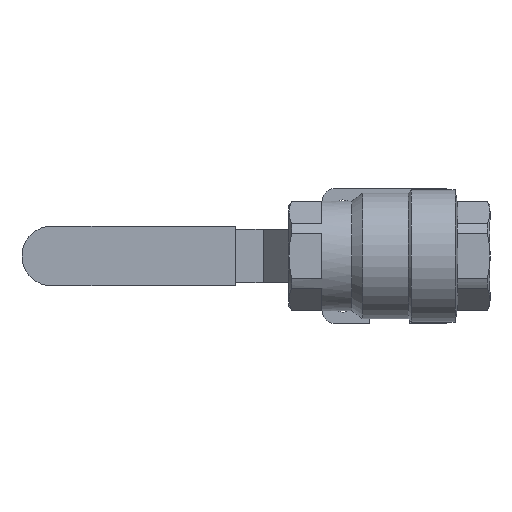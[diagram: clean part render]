
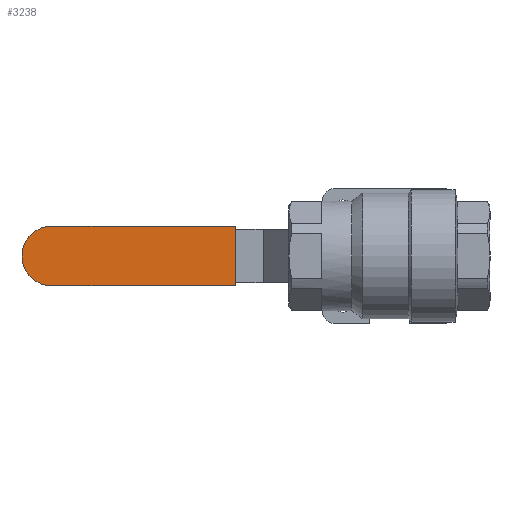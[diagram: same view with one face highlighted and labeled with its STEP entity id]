
A CAD part, front view. The second image highlights one B-rep face of the part: STEP entity #3238.
In plain terms, the highlighted planar face has unit normal (0, -1, 0).
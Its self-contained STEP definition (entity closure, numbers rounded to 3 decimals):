
#9 = ORIENTED_EDGE ( 'NONE', *, *, #4132, .F. ) ;
#40 = CARTESIAN_POINT ( 'NONE',  ( -49., 66., -9.5 ) ) ;
#321 = DIRECTION ( 'NONE',  ( 0., 0., -1. ) ) ;
#427 = DIRECTION ( 'NONE',  ( 0., 1., 0. ) ) ;
#501 = VECTOR ( 'NONE', #4200, 1000. ) ;
#531 = AXIS2_PLACEMENT_3D ( 'NONE', #2644, #427, #3017 ) ;
#788 = PLANE ( 'NONE',  #531 ) ;
#984 = ORIENTED_EDGE ( 'NONE', *, *, #3984, .F. ) ;
#1256 = CARTESIAN_POINT ( 'NONE',  ( -117., 66., -9.5 ) ) ;
#1344 = AXIS2_PLACEMENT_3D ( 'NONE', #4289, #2064, #4680 ) ;
#1453 = CARTESIAN_POINT ( 'NONE',  ( -107.5, 66., -9.5 ) ) ;
#1471 = ORIENTED_EDGE ( 'NONE', *, *, #3709, .T. ) ;
#1506 = CARTESIAN_POINT ( 'NONE',  ( -49., 66., 9.5 ) ) ;
#2064 = DIRECTION ( 'NONE',  ( 0., -1., 0. ) ) ;
#2232 = LINE ( 'NONE', #4017, #4095 ) ;
#2426 = LINE ( 'NONE', #3740, #3403 ) ;
#2480 = FACE_OUTER_BOUND ( 'NONE', #4366, .T. ) ;
#2644 = CARTESIAN_POINT ( 'NONE',  ( -117., 66., 9.5 ) ) ;
#2715 = CARTESIAN_POINT ( 'NONE',  ( -107.5, 66., 9.5 ) ) ;
#3017 = DIRECTION ( 'NONE',  ( -1., 0., 0. ) ) ;
#3081 = ORIENTED_EDGE ( 'NONE', *, *, #3802, .T. ) ;
#3238 = ADVANCED_FACE ( 'NONE', ( #2480 ), #788, .F. ) ;
#3348 = VERTEX_POINT ( 'NONE', #2715 ) ;
#3403 = VECTOR ( 'NONE', #4117, 1000. ) ;
#3452 = LINE ( 'NONE', #1256, #501 ) ;
#3568 = VERTEX_POINT ( 'NONE', #1453 ) ;
#3652 = VERTEX_POINT ( 'NONE', #40 ) ;
#3709 = EDGE_CURVE ( 'NONE', #3568, #3652, #3452, .T. ) ;
#3740 = CARTESIAN_POINT ( 'NONE',  ( -117., 66., 9.5 ) ) ;
#3802 = EDGE_CURVE ( 'NONE', #3348, #3568, #3944, .T. ) ;
#3944 = CIRCLE ( 'NONE', #1344, 9.5 ) ;
#3984 = EDGE_CURVE ( 'NONE', #4589, #3652, #2232, .T. ) ;
#4017 = CARTESIAN_POINT ( 'NONE',  ( -49., 66., 9.5 ) ) ;
#4095 = VECTOR ( 'NONE', #321, 1000. ) ;
#4117 = DIRECTION ( 'NONE',  ( 1., 0., 0. ) ) ;
#4132 = EDGE_CURVE ( 'NONE', #3348, #4589, #2426, .T. ) ;
#4200 = DIRECTION ( 'NONE',  ( 1., 0., 0. ) ) ;
#4289 = CARTESIAN_POINT ( 'NONE',  ( -107.5, 66., 0. ) ) ;
#4366 = EDGE_LOOP ( 'NONE', ( #9, #3081, #1471, #984 ) ) ;
#4589 = VERTEX_POINT ( 'NONE', #1506 ) ;
#4680 = DIRECTION ( 'NONE',  ( -1., 0., 0. ) ) ;
